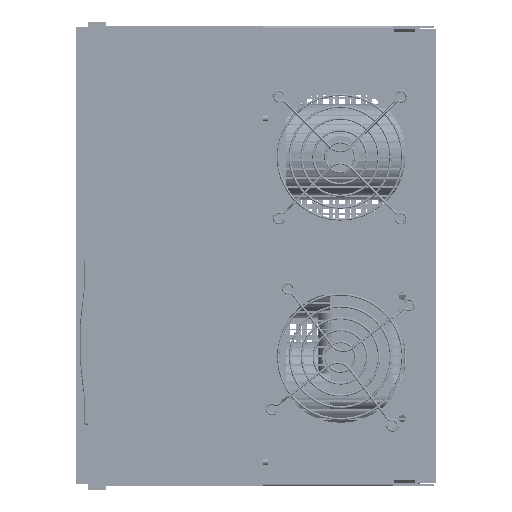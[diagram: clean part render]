
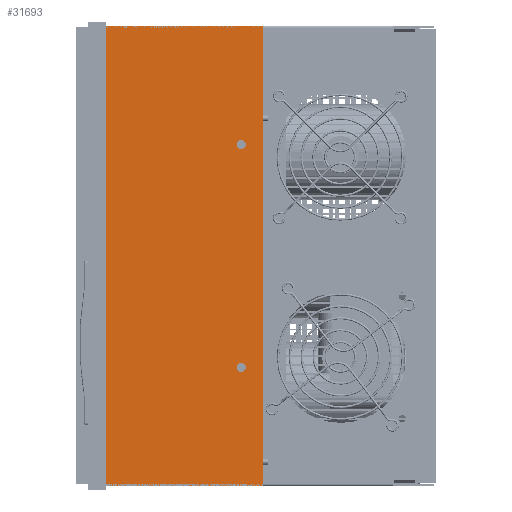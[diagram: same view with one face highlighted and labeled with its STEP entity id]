
A CAD part, left-side view. The second image highlights one B-rep face of the part: STEP entity #31693.
In plain terms, the highlighted planar face has unit normal (-1, 0, 0) as drawn and (1, 0, 0) by its records, which use the part's own axes.
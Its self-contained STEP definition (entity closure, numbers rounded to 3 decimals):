
#13032=DIRECTION('',(0.,0.,-1.));
#13033=VECTOR('',#13032,310.);
#13034=CARTESIAN_POINT('',(218.5,3.,155.));
#13035=LINE('',#13034,#13033);
#13070=DIRECTION('',(0.,0.,-1.));
#13071=VECTOR('',#13070,310.);
#13072=CARTESIAN_POINT('',(218.5,117.,155.));
#13073=LINE('',#13072,#13071);
#13074=DIRECTION('',(0.,1.,0.));
#13075=VECTOR('',#13074,114.);
#13076=CARTESIAN_POINT('',(218.5,3.,-155.));
#13077=LINE('',#13076,#13075);
#13078=DIRECTION('',(0.,-1.,0.));
#13079=VECTOR('',#13078,114.);
#13080=CARTESIAN_POINT('',(218.5,117.,155.));
#13081=LINE('',#13080,#13079);
#13082=CARTESIAN_POINT('',(218.5,101.993,-75.));
#13083=DIRECTION('',(1.,0.,0.));
#13084=DIRECTION('',(0.,0.,-1.));
#13085=AXIS2_PLACEMENT_3D('',#13082,#13083,#13084);
#13087=CARTESIAN_POINT('',(218.5,101.993,-75.));
#13088=DIRECTION('',(1.,0.,0.));
#13089=DIRECTION('',(0.,0.,1.));
#13090=AXIS2_PLACEMENT_3D('',#13087,#13088,#13089);
#13092=CARTESIAN_POINT('',(218.5,101.993,75.));
#13093=DIRECTION('',(1.,0.,0.));
#13094=DIRECTION('',(0.,0.,-1.));
#13095=AXIS2_PLACEMENT_3D('',#13092,#13093,#13094);
#13097=CARTESIAN_POINT('',(218.5,101.993,75.));
#13098=DIRECTION('',(1.,0.,0.));
#13099=DIRECTION('',(0.,0.,1.));
#13100=AXIS2_PLACEMENT_3D('',#13097,#13098,#13099);
#23555=CARTESIAN_POINT('',(218.5,3.,155.));
#23557=VERTEX_POINT('',#23555);
#23615=CARTESIAN_POINT('',(218.5,3.,-155.));
#23616=VERTEX_POINT('',#23615);
#23819=CARTESIAN_POINT('',(218.5,117.,155.));
#23820=CARTESIAN_POINT('',(218.5,117.,-155.));
#23821=VERTEX_POINT('',#23819);
#23822=VERTEX_POINT('',#23820);
#23859=CARTESIAN_POINT('',(218.5,101.993,72.));
#23860=CARTESIAN_POINT('',(218.5,101.993,78.));
#23861=VERTEX_POINT('',#23859);
#23862=VERTEX_POINT('',#23860);
#23863=CARTESIAN_POINT('',(218.5,101.993,-78.));
#23864=CARTESIAN_POINT('',(218.5,101.993,-72.));
#23865=VERTEX_POINT('',#23863);
#23866=VERTEX_POINT('',#23864);
#31667=CARTESIAN_POINT('',(218.5,0.,79.77));
#31668=DIRECTION('',(1.,0.,0.));
#31669=DIRECTION('',(0.,0.,-1.));
#31670=AXIS2_PLACEMENT_3D('',#31667,#31668,#31669);
#31671=PLANE('',#31670);
#31673=ORIENTED_EDGE('',*,*,#31672,.T.);
#31675=ORIENTED_EDGE('',*,*,#31674,.F.);
#31676=ORIENTED_EDGE('',*,*,#31653,.F.);
#31678=ORIENTED_EDGE('',*,*,#31677,.F.);
#31679=EDGE_LOOP('',(#31673,#31675,#31676,#31678));
#31680=FACE_OUTER_BOUND('',#31679,.F.);
#31682=ORIENTED_EDGE('',*,*,#31681,.T.);
#31684=ORIENTED_EDGE('',*,*,#31683,.T.);
#31685=EDGE_LOOP('',(#31682,#31684));
#31686=FACE_BOUND('',#31685,.F.);
#31688=ORIENTED_EDGE('',*,*,#31687,.T.);
#31690=ORIENTED_EDGE('',*,*,#31689,.T.);
#31691=EDGE_LOOP('',(#31688,#31690));
#31692=FACE_BOUND('',#31691,.F.);
#31693=ADVANCED_FACE('',(#31680,#31686,#31692),#31671,.T.);
#13086=CIRCLE('',#13085,3.);
#13091=CIRCLE('',#13090,3.);
#13096=CIRCLE('',#13095,3.);
#13101=CIRCLE('',#13100,3.);
#31653=EDGE_CURVE('',#23557,#23616,#13035,.T.);
#31672=EDGE_CURVE('',#23821,#23822,#13073,.T.);
#31674=EDGE_CURVE('',#23616,#23822,#13077,.T.);
#31677=EDGE_CURVE('',#23821,#23557,#13081,.T.);
#31681=EDGE_CURVE('',#23865,#23866,#13086,.T.);
#31683=EDGE_CURVE('',#23866,#23865,#13091,.T.);
#31687=EDGE_CURVE('',#23861,#23862,#13096,.T.);
#31689=EDGE_CURVE('',#23862,#23861,#13101,.T.);
